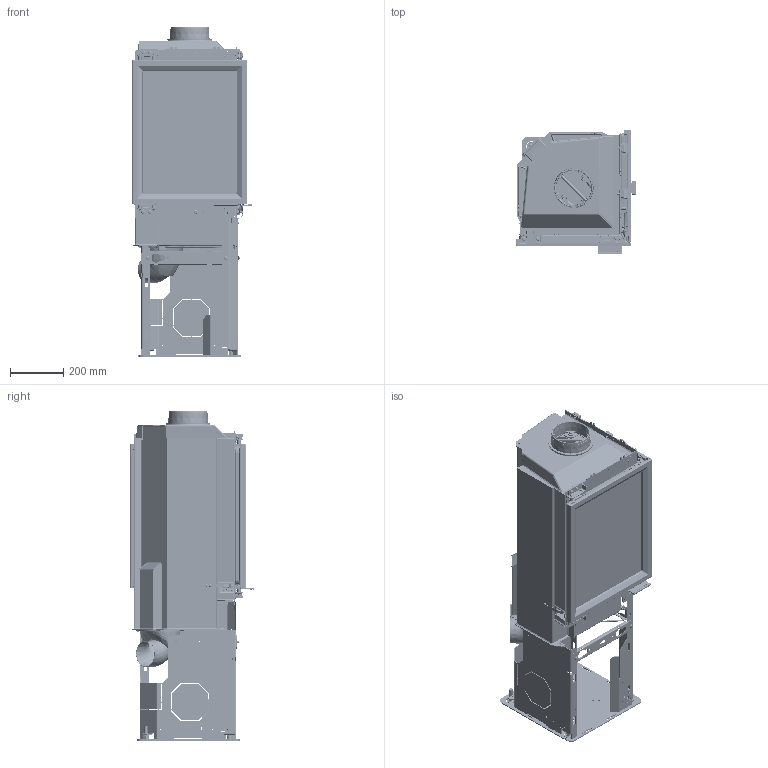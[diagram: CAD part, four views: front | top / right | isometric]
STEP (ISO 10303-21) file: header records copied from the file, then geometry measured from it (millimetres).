
FILE_DESCRIPTION(/* description */ ('Unknown'),/* implementation_level */ '2;1');
FILE_NAME(/* name */ 'Ci400',/* time_stamp */ '2026-06-04T13:13:26+02:00',/* author */ ('Unknown'),/* organization */ ('Unknown'),/* preprocessor_version */ 'ST-DEVELOPER v20',/* originating_system */ 'Solid Edge',/* authorisation */ 'Unknown');
FILE_SCHEMA (('AUTOMOTIVE_DESIGN {1 0 10303 214 3 1 1}'));
Products named in the file (246): DSN1135956; DSN1087734_oa_0; DSN1130404; DSN1089377; DSN1104774_oa_1; DSN1089373; DSN1099386; DSN1089374_oa_2; DSN1089386; DSN1074449; DSN1089387; DSN1123089_oa_3; DSN1089428; DSN1083847; FilletWeld_3; DSN1089429; FilletWeld_1; DSN1023399; DSN1083862; DSN1067626; FilletWeld_4; FilletWeld_5; DSN1121543; 416213 Blindnitmutter Sluten M10; DSN1121540; DSN1121542; DSN1121560; 016710 Skruv M6SF TT M6x16 fzb; 803700 Ställbar fot M10 kort; ExtrudedProtrusion_1; DSN1125092; ExtrudedProtrusion_2; ExtrudedProtrusion_3; FilletWeld_2; FilletWeld_6; FilletWeld_9; FilletWeld_12; FilletWeld_17; FilletWeld_23; GrooveWeld_1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
Assembly tree (368 placements, depth 6):
  DSN1135956
    DSN1087734_oa_0
      DSN1130404
        DSN1089377
          DSN1104774_oa_1
          DSN1089373
          DSN1099386
          DSN1089374_oa_2
          DSN1089386
          DSN1074449  x2
          DSN1089387
          DSN1123089_oa_3
          DSN1089428
          DSN1083847
          FilletWeld_3
          DSN1089429
          FilletWeld_1
          DSN1023399  x2
          DSN1083862
          DSN1067626
          FilletWeld_4
          FilletWeld_5
          DSN1121543
            416213 Blindnitmutter Sluten M10  x4
            DSN1121540
            DSN1121542
            DSN1121560
            016710 Skruv M6SF TT M6x16 fzb  x4
            FilletWeld_1
            803700 Ställbar fot M10 kort  x4
            ExtrudedProtrusion_1
            DSN1125092  x2
            ExtrudedProtrusion_2
            ExtrudedProtrusion_3
            FilletWeld_2
          FilletWeld_6
          FilletWeld_9
          FilletWeld_12
          FilletWeld_17
          FilletWeld_23
          GrooveWeld_1
          GrooveWeld_2
          DSN1121563
          GrooveWeld_4
          FilletWeld_25
          FilletWeld_26
          GrooveWeld_10
          FilletWeld_30
          GrooveWeld_18
          GrooveWeld_17
          GrooveWeld_16
          GrooveWeld_15
          GrooveWeld_14
          GrooveWeld_19
          GrooveWeld_13
          FilletWeld_33
          FilletWeld_32
          FilletWeld_34
          ExtrudedProtrusion_5
          ExtrudedProtrusion_6
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Bounding box: 450.53 x 464.76 x 1236.6 mm (x, y, z)
Volume: 12641091.1 mm3; surface area: 7422681.3 mm2
Topology: 440 solids, 441 shells, 15075 faces, 37245 edges, 22833 vertices
Faces by surface type: plane 6560, cylinder 4559, bspline 1667, torus 1057, cone 895, sphere 337
Full cylindrical faces by diameter (mm): 1.5 x2, 3.242 x6, 3.291 x60, 3.3 x8, 3.4 x2, 3.5 x29, 3.65 x8, 3.8 x8, 4 x84, 4.134 x8, 4.15 x4, 4.2 x56, 4.3 x11, 4.334 x4, 4.5 x32, 4.6 x8, 4.8 x2, 4.917 x14, 5 x45, 5.2 x5, 5.3 x2, 5.5 x6, 5.6 x38, 5.7 x1, 5.8 x4, 5.9 x4, 6 x46, 6.1 x2, 6.3 x2, 6.5 x11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
Entity records: 389039 total; most frequent: CARTESIAN_POINT 122661, ORIENTED_EDGE 53212, DIRECTION 52345, EDGE_CURVE 26606, AXIS2_PLACEMENT_3D 18479, VERTEX_POINT 16860, LINE 15387, VECTOR 15387
